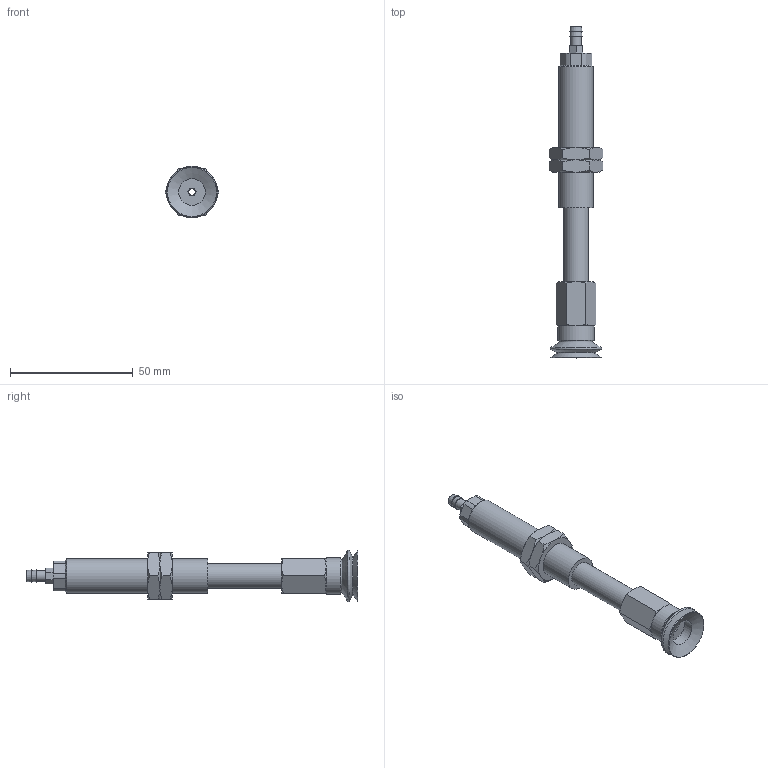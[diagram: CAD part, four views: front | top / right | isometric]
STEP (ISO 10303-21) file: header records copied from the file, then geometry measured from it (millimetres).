
FILE_DESCRIPTION(('STEP AP203'),'1');
FILE_NAME('-T.stp','2025-08-27T07:42:31',(' '),(' '),'Spatial InterOp 3D',' ',' ');
FILE_SCHEMA(('CONFIG_CONTROL_DESIGN'));
Length unit declared in the file: millimetre
Products named in the file (8): BNABPJTS-20-30-※-T; ADAPTER; NAPBTS-20-30--M; Adapter-20-NAPJ; NUT-NAPJ-20-30-s; NAPJTS-20-30-FBODY; BPJG-20-※; T
Assembly tree (8 placements, depth 2):
  BNABPJTS-20-30-※-T
    ADAPTER
    NAPBTS-20-30--M
    Adapter-20-NAPJ
    NUT-NAPJ-20-30-s  x2
    NAPJTS-20-30-FBODY
    BPJG-20-※
    T
Bounding box: 21.94 x 135 x 21 mm (x, y, z)
Volume: 17931.5 mm3; surface area: 14309.2 mm2
Topology: 8 solids, 8 shells, 145 faces, 307 edges, 188 vertices
Faces by surface type: plane 62, cone 52, cylinder 24, torus 7
Full cylindrical faces by diameter (mm): 2.5 x1, 3 x3, 4.134 x2, 4.3 x1, 4.6 x1, 5 x2, 10 x2, 10.8 x1, 11 x1, 13.188 x2, 14 x1, 15 x1
Entity records: 3670 total; most frequent: CARTESIAN_POINT 833, DIRECTION 520, ORIENTED_EDGE 426, AXIS2_PLACEMENT_3D 224, EDGE_CURVE 213, EDGE_LOOP 184, VERTEX_POINT 153, FACE_OUTER_BOUND 146
